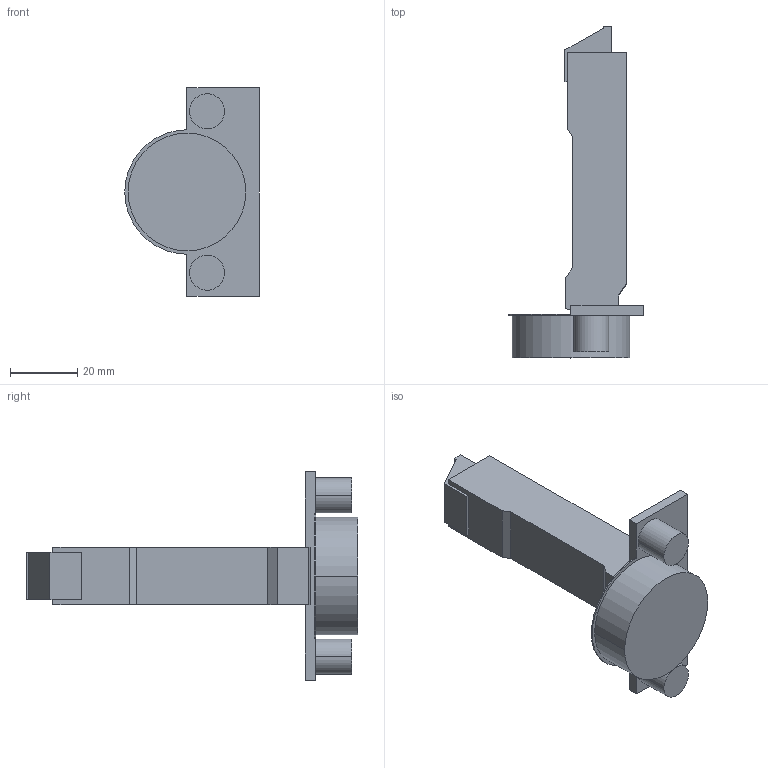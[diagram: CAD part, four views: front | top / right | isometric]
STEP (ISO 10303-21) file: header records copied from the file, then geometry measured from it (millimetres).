
FILE_DESCRIPTION (( 'STEP AP214' ), '1' );
FILE_NAME ('Scharnier TS Click-on 95° S_BB, K03_Dübel.step', '2010-12-06T09:51:22', ( 'grass' ), ( '' ), 'SwSTEP 2.0', 'SolidWorks 2010', '' );
FILE_SCHEMA (( 'AUTOMOTIVE_DESIGN' ));
Length unit declared in the file: millimetre
Products named in the file (1): Scharnier TS Click-on 95° S_BB, K03_Dübel
Bounding box: 40 x 98.7 x 62 mm (x, y, z)
Volume: 40207.1 mm3; surface area: 11971.2 mm2
Topology: 1 solids, 1 shells, 54 faces, 132 edges, 88 vertices
Faces by surface type: plane 37, cylinder 17
Entity records: 1624 total; most frequent: DIRECTION 276, CARTESIAN_POINT 275, ORIENTED_EDGE 264, EDGE_CURVE 132, LINE 98, VECTOR 98, AXIS2_PLACEMENT_3D 89, VERTEX_POINT 88
